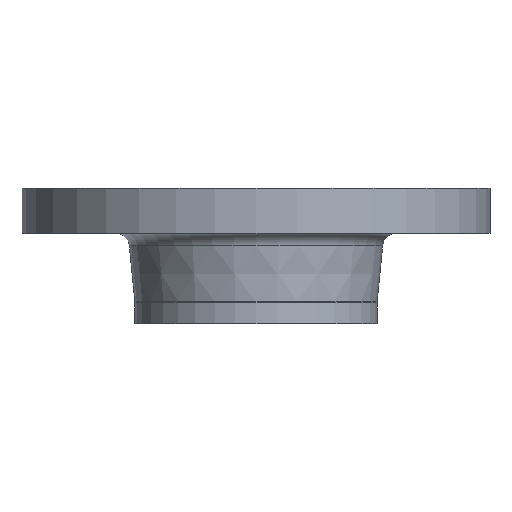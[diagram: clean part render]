
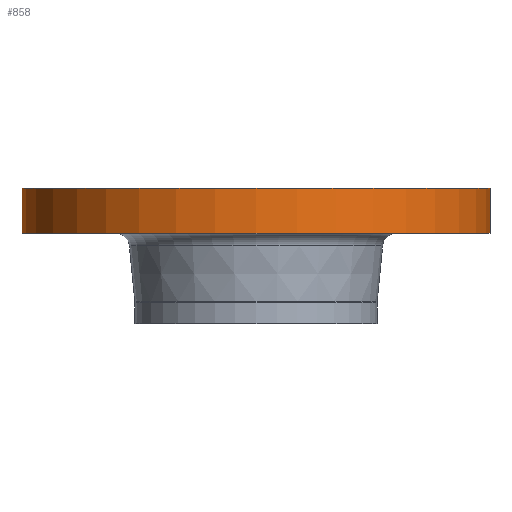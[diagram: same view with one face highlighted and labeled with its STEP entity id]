
A CAD part, front view. The second image highlights one B-rep face of the part: STEP entity #858.
In plain terms, the highlighted cylindrical face has radius 135 mm (diameter 270 mm), a partial arc.
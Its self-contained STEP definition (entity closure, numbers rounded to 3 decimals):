
#12 = AXIS2_PLACEMENT_3D ( 'NONE', #80, #79, #78 ) ;
#24 = DIRECTION ( 'NONE',  ( 0., 0., 1. ) ) ;
#25 = CARTESIAN_POINT ( 'NONE',  ( 135., 0., -78. ) ) ;
#29 = LINE ( 'NONE', #25, #466 ) ;
#33 = DIRECTION ( 'NONE',  ( 0., 0., 1. ) ) ;
#34 = CARTESIAN_POINT ( 'NONE',  ( -135., 0., -78. ) ) ;
#35 = LINE ( 'NONE', #34, #465 ) ;
#71 = CARTESIAN_POINT ( 'NONE',  ( -135., 0., -26. ) ) ;
#78 = DIRECTION ( 'NONE',  ( 1., 0., 0. ) ) ;
#79 = DIRECTION ( 'NONE',  ( 0., 0., 1. ) ) ;
#80 = CARTESIAN_POINT ( 'NONE',  ( 0., 0., -78. ) ) ;
#82 = CYLINDRICAL_SURFACE ( 'NONE', #12, 135. ) ;
#83 = FACE_OUTER_BOUND ( 'NONE', #604, .T. ) ;
#86 = CARTESIAN_POINT ( 'NONE',  ( -135., 0., 0. ) ) ;
#156 = CARTESIAN_POINT ( 'NONE',  ( 135., 0., 0. ) ) ;
#219 = DIRECTION ( 'NONE',  ( 1., 0., 0. ) ) ;
#220 = DIRECTION ( 'NONE',  ( 0., 0., 1. ) ) ;
#222 = CARTESIAN_POINT ( 'NONE',  ( 0., 0., 0. ) ) ;
#301 = AXIS2_PLACEMENT_3D ( 'NONE', #222, #220, #219 ) ;
#315 = CIRCLE ( 'NONE', #301, 135. ) ;
#321 = EDGE_CURVE ( 'NONE', #867, #961, #643, .T. ) ;
#465 = VECTOR ( 'NONE', #33, 1000. ) ;
#466 = VECTOR ( 'NONE', #24, 1000. ) ;
#550 = CARTESIAN_POINT ( 'NONE',  ( 135., 0., -26. ) ) ;
#590 = EDGE_CURVE ( 'NONE', #846, #718, #315, .T. ) ;
#604 = EDGE_LOOP ( 'NONE', ( #796, #797, #798, #800 ) ) ;
#630 = CARTESIAN_POINT ( 'NONE',  ( 0., 0., -26. ) ) ;
#631 = DIRECTION ( 'NONE',  ( 0., 0., 1. ) ) ;
#632 = DIRECTION ( 'NONE',  ( 1., 0., 0. ) ) ;
#643 = CIRCLE ( 'NONE', #651, 135. ) ;
#651 = AXIS2_PLACEMENT_3D ( 'NONE', #630, #631, #632 ) ;
#718 = VERTEX_POINT ( 'NONE', #156 ) ;
#796 = ORIENTED_EDGE ( 'NONE', *, *, #924, .F. ) ;
#797 = ORIENTED_EDGE ( 'NONE', *, *, #321, .T. ) ;
#798 = ORIENTED_EDGE ( 'NONE', *, *, #927, .T. ) ;
#800 = ORIENTED_EDGE ( 'NONE', *, *, #590, .F. ) ;
#846 = VERTEX_POINT ( 'NONE', #86 ) ;
#858 = ADVANCED_FACE ( 'NONE', ( #83 ), #82, .T. ) ;
#867 = VERTEX_POINT ( 'NONE', #71 ) ;
#924 = EDGE_CURVE ( 'NONE', #867, #846, #35, .T. ) ;
#927 = EDGE_CURVE ( 'NONE', #961, #718, #29, .T. ) ;
#961 = VERTEX_POINT ( 'NONE', #550 ) ;
